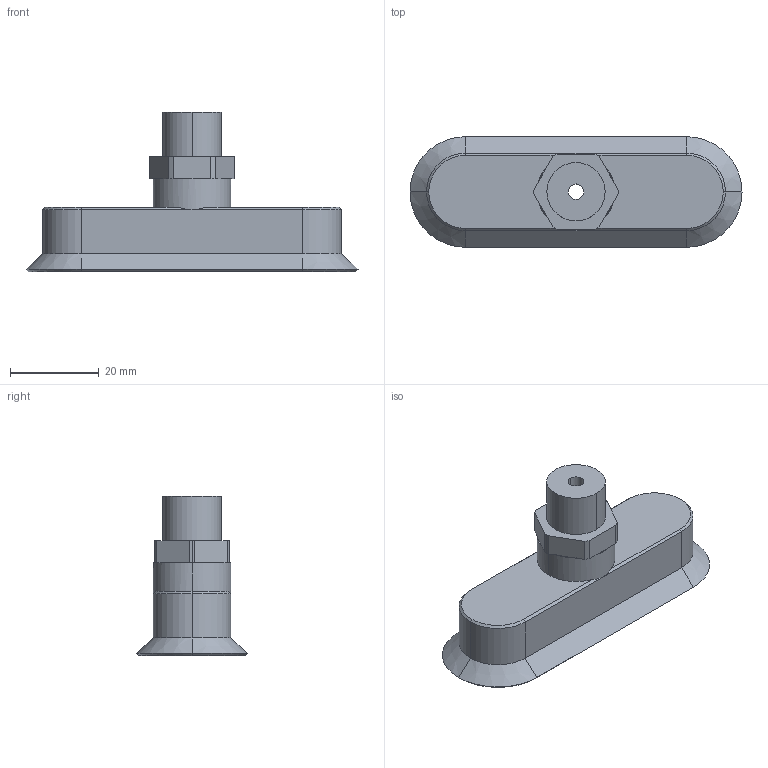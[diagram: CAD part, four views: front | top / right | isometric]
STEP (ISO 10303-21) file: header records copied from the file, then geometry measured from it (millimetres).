
FILE_DESCRIPTION(('STEP AP214'),'1');
FILE_NAME('10_01_05_00413.stp','2021-01-28T16:52:12',('TraceParts'),('TraceParts S.A.'),'Spatial InterOp 3D',' ',' ');
FILE_SCHEMA(('AUTOMOTIVE_DESIGN { 1 0 10303 214 1 1 1 1 }'));
Length unit declared in the file: millimetre
Products named in the file (1): 10_01_05_00413
Bounding box: 75 x 25 x 36 mm (x, y, z)
Volume: 17642.6 mm3; surface area: 7216.3 mm2
Topology: 1 solids, 4 shells, 96 faces, 220 edges, 134 vertices
Faces by surface type: plane 48, cylinder 30, cone 18
Entity records: 3497 total; most frequent: DIRECTION 504, CARTESIAN_POINT 463, ORIENTED_EDGE 440, EDGE_CURVE 220, AXIS2_PLACEMENT_3D 191, VERTEX_POINT 134, LINE 122, VECTOR 122
